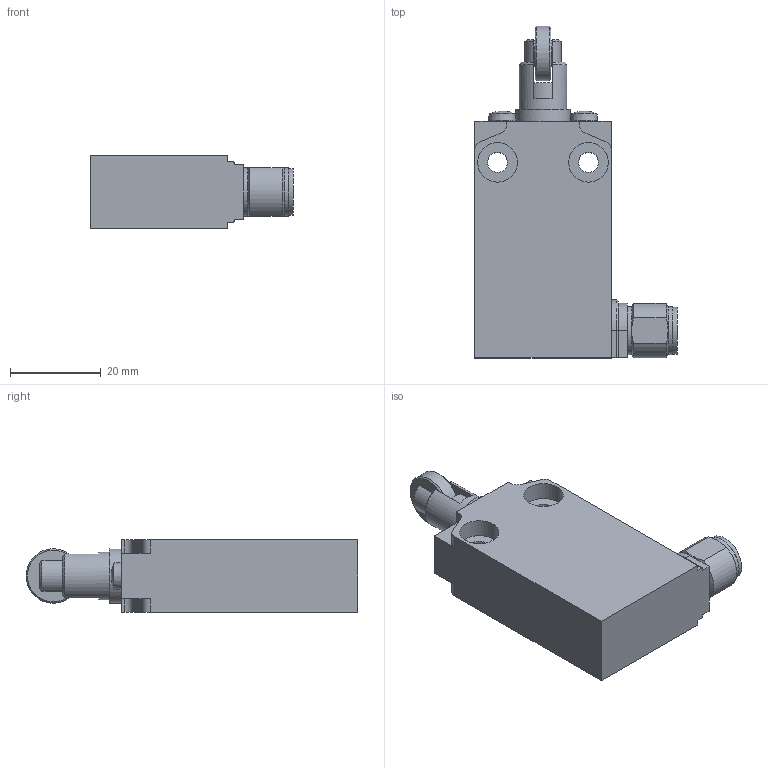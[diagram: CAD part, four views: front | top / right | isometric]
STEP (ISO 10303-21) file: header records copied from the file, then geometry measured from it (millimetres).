
FILE_DESCRIPTION(/* description */ (''),/* implementation_level */ '2;1');
FILE_NAME(/* name */ 'C:\Users\servizio.tecnico\Desktop\CADENAS\3D\EP1_STP\STP_EP1_G15M.stp',/* time_stamp */ '2017-09-04T11:07:20+02:00',/* author */ ('servizio.tecnico'),/* organization */ (''),/* preprocessor_version */ 'ST-DEVELOPER v16.1',/* originating_system */ 'Autodesk Inventor 2016',/* authorisation */ '');
FILE_SCHEMA (('AUTOMOTIVE_DESIGN { 1 0 10303 214 3 1 1 }'));
Length unit declared in the file: millimetre
Products named in the file (3): Product; EP1G15-M; BASE ASSI 
Assembly tree (2 placements, depth 3):
  BASE ASSI 
    EP1G15-M
      Product
Bounding box: 44.5 x 73 x 16 mm (x, y, z)
Volume: 26372.2 mm3; surface area: 9356.2 mm2
Topology: 4 solids, 4 shells, 127 faces, 314 edges, 203 vertices
Faces by surface type: plane 68, cylinder 38, cone 16, torus 3, sphere 2
Full cylindrical faces by diameter (mm): 4.4 x2, 5.6 x2, 7.95 x1, 8.05 x1, 8.7 x4, 10.3 x1, 10.5 x1, 10.6 x2, 12 x2
Entity records: 3680 total; most frequent: CARTESIAN_POINT 651, DIRECTION 632, ORIENTED_EDGE 558, EDGE_CURVE 279, AXIS2_PLACEMENT_3D 245, VERTEX_POINT 192, EDGE_LOOP 163, LINE 142
